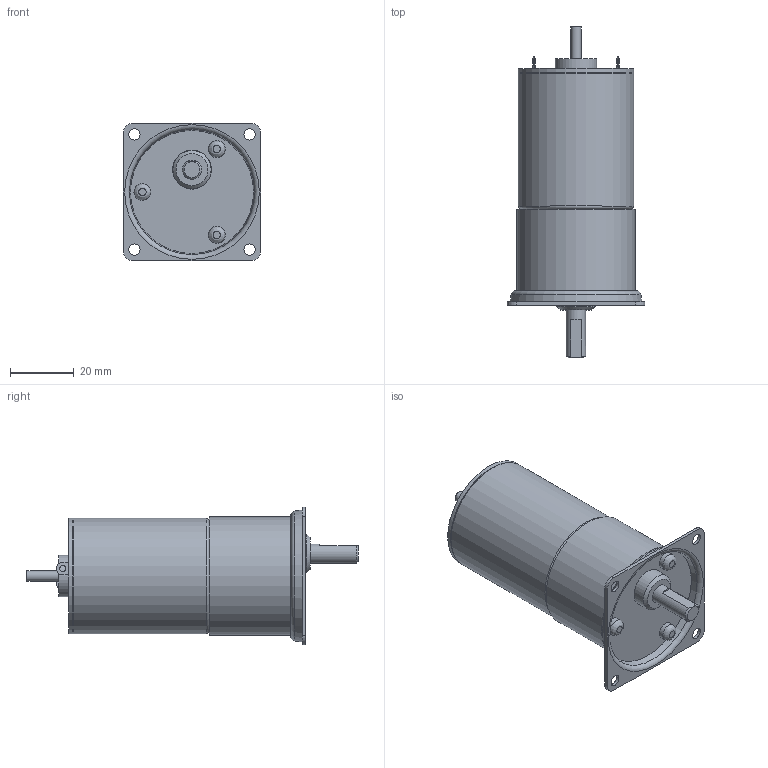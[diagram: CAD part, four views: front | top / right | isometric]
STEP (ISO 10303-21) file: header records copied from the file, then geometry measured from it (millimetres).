
FILE_DESCRIPTION((''),'2;1');
FILE_NAME('C:\Documents and Settings\SSEGAWA\デスクトップ\TP-3644L-PM-3.STP','2013-07-26T18:55:59',('SSEGAWA'),(''),'Autodesk Inventor 2010','Autodesk Inventor 2010','');
FILE_SCHEMA(('CONFIG_CONTROL_DESIGN'));
Length unit declared in the file: millimetre
Products named in the file (1): tp_3644l_pm_3_Shrinkwrap_1
Bounding box: 43 x 103.8 x 43 mm (x, y, z)
Volume: 75598.8 mm3; surface area: 14508.9 mm2
Topology: 1 solids, 12 shells, 105 faces, 209 edges, 139 vertices
Faces by surface type: plane 47, cylinder 27, bspline 23, torus 4, cone 4
Full cylindrical faces by diameter (mm): 3 x1, 3.175 x1, 3.5 x1, 4 x3, 5.3 x3, 6 x1, 12 x1, 12.2 x1, 13 x1, 35.6 x1, 36 x2, 37 x1
Entity records: 2825 total; most frequent: CARTESIAN_POINT 837, DIRECTION 397, ORIENTED_EDGE 278, AXIS2_PLACEMENT_3D 177, EDGE_LOOP 175, EDGE_CURVE 139, VERTEX_POINT 116, STYLED_ITEM 106
